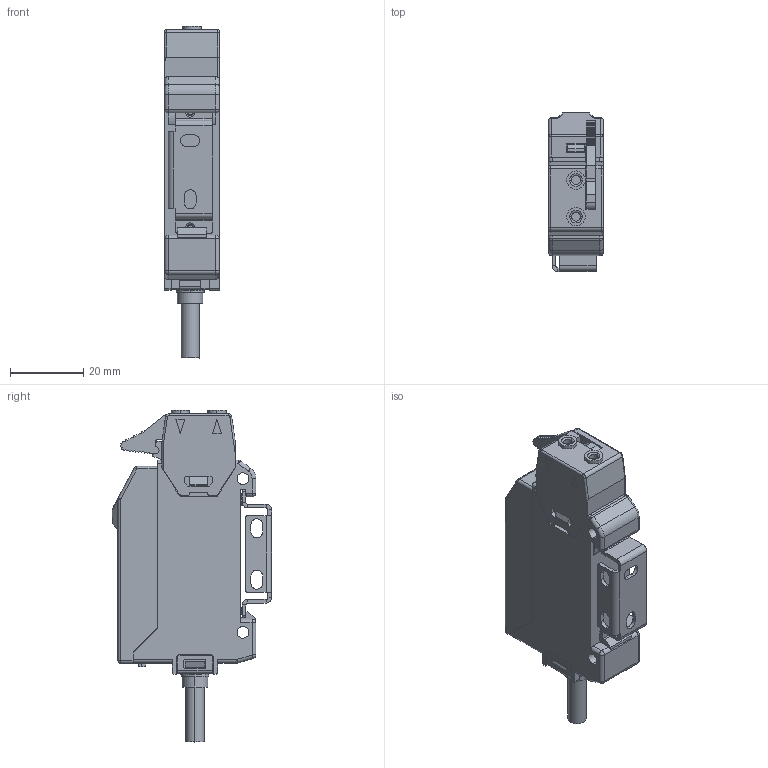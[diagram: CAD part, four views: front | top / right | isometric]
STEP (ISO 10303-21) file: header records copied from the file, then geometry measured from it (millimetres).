
FILE_DESCRIPTION (( 'STEP AP214' ), '1' );
FILE_NAME ('BF3RX_BF3RX-P.STEP', '2019-06-18T02:36:27', ( '' ), ( '' ), 'SwSTEP 2.0', 'SolidWorks 2018', '' );
FILE_SCHEMA (( 'AUTOMOTIVE_DESIGN' ));
Length unit declared in the file: millimetre
Products named in the file (1): BF3RX_BF3RX-P
Bounding box: 15 x 43.4 x 90.6 mm (x, y, z)
Volume: 31787.5 mm3; surface area: 15053.1 mm2
Topology: 3 solids, 4 shells, 765 faces, 2060 edges, 1327 vertices
Faces by surface type: plane 429, cylinder 274, torus 34, sphere 20, cone 6, bspline 2
Entity records: 26234 total; most frequent: CARTESIAN_POINT 4468, ORIENTED_EDGE 4088, DIRECTION 4072, EDGE_CURVE 2044, VECTOR 1368, LINE 1368, AXIS2_PLACEMENT_3D 1352, VERTEX_POINT 1327
